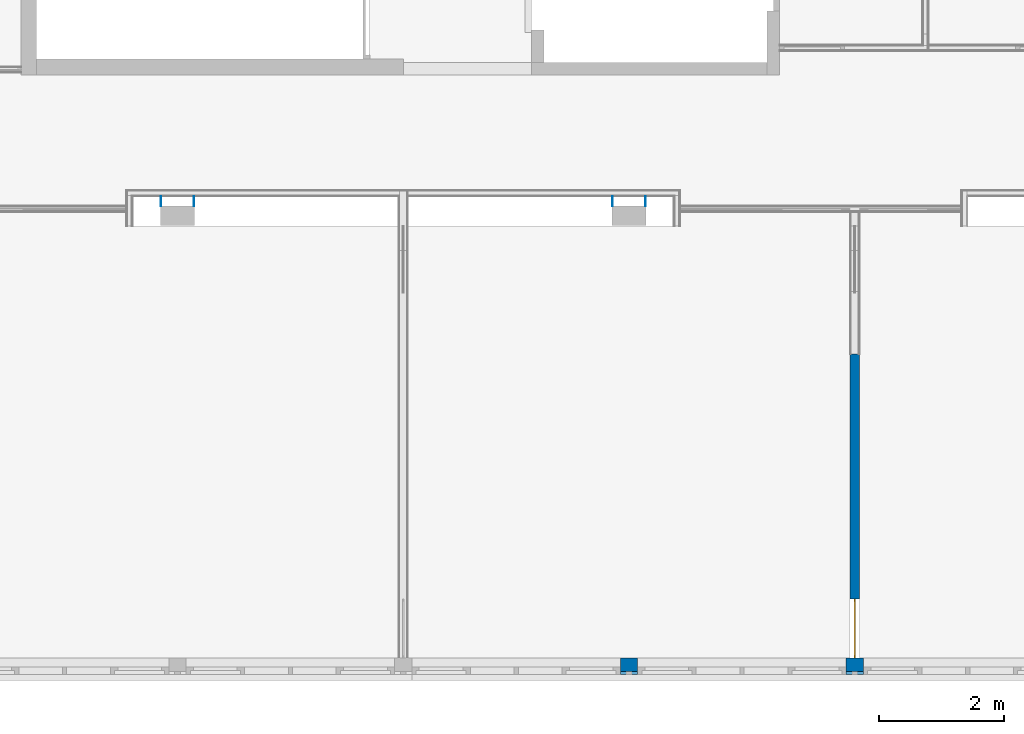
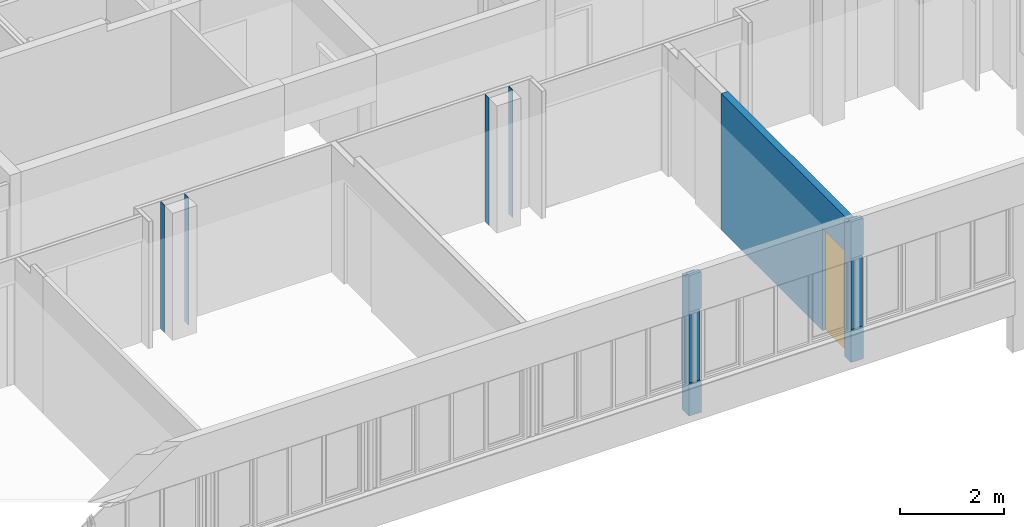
# One storey, part 41 of 99: 7 walls, 1 window, 1 opening.
"""IFC2X3 building model written with IfcOpenShell, lengths in millimetres."""

from ifc_helpers import new_model, entity, si_unit, converted_unit, derived_unit, money_unit, direction, frame, origin_with_axes, place, context, subcontext, project, spatial, open_shell, faceted_brep, surface_model, material, type_object, element, fill, save


model = new_model("IFC2X3")

# Units and contexts
model_context = context("Model", 3, precision=0.01, world=origin_with_axes(), true_north=direction((0.0, 1.0)))
body_context = subcontext(model_context, "Body", "Model", "MODEL_VIEW")
ifc_project = project(units=[si_unit("LENGTHUNIT", "METRE", prefix="MILLI"), si_unit("AREAUNIT", "SQUARE_METRE"), si_unit("VOLUMEUNIT", "CUBIC_METRE"), converted_unit("PLANEANGLEUNIT", "DEGREE", entity("IfcPlaneAngleMeasure", 0.0174532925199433), si_unit("PLANEANGLEUNIT", "RADIAN"), dimensions=[0, 0, 0, 0, 0, 0, 0]), money_unit("EUR"), converted_unit("TIMEUNIT", "Year", entity("IfcTimeMeasure", 31557600.0), si_unit("TIMEUNIT", "SECOND"), dimensions=[0, 0, 1, 0, 0, 0, 0]), si_unit("MASSUNIT", "GRAM", prefix="KILO"), si_unit("THERMODYNAMICTEMPERATUREUNIT", "DEGREE_CELSIUS"), si_unit("LUMINOUSINTENSITYUNIT", "LUMEN"), si_unit("ENERGYUNIT", "JOULE", prefix="MEGA"), derived_unit("THERMALCONDUCTANCEUNIT", [(si_unit("POWERUNIT", "WATT"), 1), (si_unit("LENGTHUNIT", "METRE"), -1), (si_unit("THERMODYNAMICTEMPERATUREUNIT", "KELVIN"), -1)]), derived_unit("SPECIFICHEATCAPACITYUNIT", [(si_unit("ENERGYUNIT", "JOULE"), 1), (si_unit("MASSUNIT", "GRAM", prefix="KILO"), -1), (si_unit("THERMODYNAMICTEMPERATUREUNIT", "KELVIN"), -1)]), derived_unit("MASSDENSITYUNIT", [(si_unit("MASSUNIT", "GRAM", prefix="KILO"), 1), (si_unit("VOLUMEUNIT", "CUBIC_METRE"), -1)])], contexts=[model_context])

# Site, building, storey
site_placement = place(None, origin_with_axes())
site = spatial("IfcSite", under=ifc_project, at=site_placement, Name="Site", CompositionType="ELEMENT")
building_placement = place(site_placement, origin_with_axes())
building = spatial("IfcBuilding", under=site, at=building_placement, Name="Naam gebouw", CompositionType="ELEMENT")
storey_placement = place(building_placement, frame((0.0, 0.0, 7650.0), z_axis=(0.0, 0.0, 1.0), x_axis=(1.0, 0.0, 0.0)))
storey = spatial("IfcBuildingStorey", under=building, at=storey_placement, Name="2e verdieping N", CompositionType="ELEMENT", Elevation=7650.0)

# Wall, opening, window
ifc_material_1 = material(Name="ALG - CONSTRUCTIEF")
wall_type_1 = type_object("IfcWallType", Name="ALG - CONSTRUCTIEF 150", PredefinedType="NOTDEFINED")
wall_1_placement = place(storey_placement, frame((25200.0, 3445.658971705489, -99.99999999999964), z_axis=(0.0, 0.0, 1.0), x_axis=(0.0, 1.0, 0.0)))
wall_1 = element("IfcWall", 1, at=wall_1_placement, inside=storey, type_object=wall_type_1, material=ifc_material_1, Name="_Wand-x", context=body_context, shape_type="Brep", body=[
    faceted_brep([(0.009163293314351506, 74.99999999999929, 3299.999999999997), (0.009735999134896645, 74.99999999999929, 2500.0), (0.009735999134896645, -9.99999999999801, 2500.0), (4845.253457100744, 74.99999999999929, 3299.999999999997), (4845.253457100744, 74.99999999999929, 99.99999999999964), (940.0097359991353, 74.99999999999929, 99.99999999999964), (940.0097359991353, 74.99999999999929, 2500.0), (940.0097359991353, -74.99999999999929, 2500.0), (0.009735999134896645, -74.99999999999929, 2500.0), (0.009163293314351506, -74.99999999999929, 3299.999999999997), (4845.253457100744, -74.99999999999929, 3299.999999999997), (4845.253457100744, -74.99999999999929, 99.99999999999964), (940.0097359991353, -74.99999999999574, 99.99999999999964), (940.0097359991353, -9.99999999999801, 99.99999999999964)], [[[0, 1, 2]], [[1, 0, 3, 4, 5, 6]], [[1, 6, 7, 8, 2]], [[9, 0, 2, 8]], [[3, 0, 9, 10]], [[4, 3, 10, 11]], [[5, 4, 11, 12, 13]], [[6, 5, 13, 12, 7]], [[9, 8, 7, 12, 11, 10]]]),
])
opening_placement = place(wall_1_placement, frame((470.0097359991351, 0.0, 99.99999999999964), z_axis=(0.0, 0.0, 1.0), x_axis=(1.0, 0.0, 0.0)))
opening = element("IfcOpeningElement", 2, at=opening_placement, cuts=wall_1, Name="_Merk-002", context=body_context, shape_type="Brep", body=[
    faceted_brep([(470.0000000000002, -9.99999999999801, 0.0), (470.0000000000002, -9.99999999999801, 2400.0), (470.0000000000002, -76.00000000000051, 2400.0), (470.0000000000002, -76.00000000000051, 0.0), (470.0000000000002, 76.00000000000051, 0.0), (470.0000000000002, 76.00000000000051, 2400.0), (-470.0000000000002, -9.99999999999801, 2400.0), (-470.0000000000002, -76.00000000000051, 2400.0), (-470.0000000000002, 76.00000000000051, 2400.0), (-470.0000000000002, -76.00000000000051, 0.0), (-470.0000000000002, -9.99999999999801, 0.0), (-470.0000000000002, 76.00000000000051, 0.0)], [[[0, 1, 2, 3]], [[1, 0, 4, 5]], [[6, 7, 2, 1, 5, 8]], [[7, 9, 3, 2]], [[0, 3, 9, 10, 11, 4]], [[5, 4, 11, 8]], [[6, 10, 9, 7]], [[10, 6, 8, 11]]]),
])
window_style = type_object("IfcWindowStyle", Name="R1 26", ConstructionType="NOTDEFINED", OperationType="SINGLE_PANEL", ParameterTakesPrecedence=False, Sizeable=False)
window_placement = place(opening_placement, frame((470.0000000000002, 0.0, 0.0), z_axis=(0.0, 0.0, 1.0), x_axis=(-1.0, 0.0, 0.0)))
window = element("IfcWindow", 3, at=window_placement, inside=storey, type_object=window_style, Name="_Merk-002", ObjectType="WINDOW", OverallHeight=2400.0, OverallWidth=940.0, context=body_context, shape_type="SurfaceModel", body=[
    faceted_brep([(910.0000000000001, -10.00000000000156, 2369.999999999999), (940.0000000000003, -10.00000000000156, 2369.999999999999), (940.0000000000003, 9.99999999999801, 2369.999999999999), (910.0000000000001, 9.99999999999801, 2369.999999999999), (910.0000000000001, -10.00000000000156, 30.00000000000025), (940.0000000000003, -10.00000000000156, 30.00000000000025), (940.0000000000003, 9.99999999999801, 30.00000000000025), (910.0000000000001, 9.99999999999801, 30.00000000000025)], [[[0, 1, 2, 3]], [[0, 4, 5, 1]], [[1, 5, 6, 2]], [[3, 2, 6, 7]], [[4, 0, 3, 7]], [[5, 4, 7, 6]]]),
    faceted_brep([(30.00000000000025, -10.00000000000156, 30.00000000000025), (0.0, -10.00000000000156, 30.00000000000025), (0.0, 9.99999999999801, 30.00000000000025), (30.00000000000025, 9.99999999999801, 30.00000000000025), (30.00000000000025, -10.00000000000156, 2369.999999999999), (0.0, -10.00000000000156, 2369.999999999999), (0.0, 9.99999999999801, 2369.999999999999), (30.00000000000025, 9.99999999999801, 2369.999999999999)], [[[0, 1, 2, 3]], [[0, 4, 5, 1]], [[1, 5, 6, 2]], [[3, 2, 6, 7]], [[4, 0, 3, 7]], [[5, 4, 7, 6]]]),
    faceted_brep([(910.0000000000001, -10.00000000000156, 30.00000000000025), (940.0000000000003, -10.00000000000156, 30.00000000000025), (940.0000000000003, 9.99999999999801, 30.00000000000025), (910.0000000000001, 9.99999999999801, 30.00000000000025), (30.00000000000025, -10.00000000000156, 30.00000000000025), (0.0, -10.00000000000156, 30.00000000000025), (0.0, -10.00000000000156, 0.0), (940.0000000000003, -10.00000000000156, 0.0), (940.0000000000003, 9.99999999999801, 0.0), (0.0, 9.99999999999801, 0.0), (0.0, 9.99999999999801, 30.00000000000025), (30.00000000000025, 9.99999999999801, 30.00000000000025)], [[[0, 1, 2, 3]], [[0, 4, 5, 6, 7, 1]], [[1, 7, 8, 2]], [[3, 2, 8, 9, 10, 11]], [[4, 0, 3, 11]], [[5, 4, 11, 10]], [[6, 5, 10, 9]], [[7, 6, 9, 8]]]),
    faceted_brep([(30.00000000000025, -10.00000000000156, 2369.999999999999), (0.0, -10.00000000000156, 2369.999999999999), (0.0, 9.99999999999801, 2369.999999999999), (30.00000000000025, 9.99999999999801, 2369.999999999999), (910.0000000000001, -10.00000000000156, 2369.999999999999), (940.0000000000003, -10.00000000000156, 2369.999999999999), (940.0000000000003, -10.00000000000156, 2400.0), (0.0, -10.00000000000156, 2400.0), (0.0, 9.99999999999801, 2400.0), (940.0000000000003, 9.99999999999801, 2400.0), (940.0000000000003, 9.99999999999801, 2369.999999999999), (910.0000000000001, 9.99999999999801, 2369.999999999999)], [[[0, 1, 2, 3]], [[0, 4, 5, 6, 7, 1]], [[1, 7, 8, 2]], [[3, 2, 8, 9, 10, 11]], [[4, 0, 3, 11]], [[5, 4, 11, 10]], [[6, 5, 10, 9]], [[7, 6, 9, 8]]]),
    surface_model("IfcShellBasedSurfaceModel", [(910.0000000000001, -10.00000000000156, 30.00000000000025), (910.0000000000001, -10.00000000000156, 2369.999999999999), (30.00000000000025, -10.00000000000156, 2369.999999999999), (30.00000000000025, -10.00000000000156, 30.00000000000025)], [open_shell([[[0, 1, 2, 3]]])]),
    surface_model("IfcShellBasedSurfaceModel", [(910.0000000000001, 0.0, 30.00000000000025), (30.00000000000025, 0.0, 30.00000000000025), (30.00000000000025, 0.0, 2369.999999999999), (910.0000000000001, 0.0, 2369.999999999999)], [open_shell([[[0, 1, 2, 3]]])]),
])
fill(opening, window)

# Walls
ifc_material_2 = material(Name="Gipsplaat")
wall_type_2 = type_object("IfcWallType", Name="Metalstud 100 enkel 100", PredefinedType="NOTDEFINED")
wall_2_placement = place(storey_placement, frame((14130.0, 10650.91242510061, 0.0), z_axis=(0.0, 0.0, 1.0), x_axis=(0.0, 1.0, 0.0)))
element("IfcWall", 4, at=wall_2_placement, inside=storey, type_object=wall_type_2, material=ifc_material_2, Name="_Wand-x", context=body_context, shape_type="Brep", body=[
    faceted_brep([(155.0000000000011, -12.49999999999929, 0.0), (155.0000000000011, 0.0, 0.0), (155.0000000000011, 0.0, 2989.999999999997), (155.0000000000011, -12.49999999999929, 2989.999999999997), (0.0, -12.49999999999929, 0.0), (0.0, 0.0, 0.0), (0.0, 0.0, 2989.999999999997), (0.0, -12.49999999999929, 2989.999999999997)], [[[0, 1, 2, 3]], [[4, 5, 1, 0]], [[1, 5, 6, 2]], [[2, 6, 7, 3]], [[4, 0, 3, 7]], [[5, 4, 7, 6]]]),
])
wall_3_placement = place(storey_placement, frame((21870.0, 10650.91242510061, 0.0), z_axis=(0.0, 0.0, 1.0), x_axis=(0.0, 1.0, 0.0)))
element("IfcWall", 5, at=wall_3_placement, inside=storey, type_object=wall_type_2, material=ifc_material_2, Name="_Wand-x", context=body_context, shape_type="Brep", body=[
    faceted_brep([(155.0000000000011, 0.0, 0.0), (155.0000000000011, 12.49999999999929, 0.0), (155.0000000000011, 12.49999999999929, 2989.999999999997), (155.0000000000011, 0.0, 2989.999999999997), (0.0, 0.0, 0.0), (0.0, 12.49999999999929, 0.0), (0.0, 12.49999999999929, 2989.999999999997), (0.0, 0.0, 2989.999999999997)], [[[0, 1, 2, 3]], [[4, 5, 1, 0]], [[1, 5, 6, 2]], [[2, 6, 7, 3]], [[4, 0, 3, 7]], [[5, 4, 7, 6]]]),
])
wall_4_placement = place(storey_placement, frame((14670.0, 10650.91242510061, 0.0), z_axis=(0.0, 0.0, 1.0), x_axis=(0.0, 1.0, 0.0)))
element("IfcWall", 6, at=wall_4_placement, inside=storey, type_object=wall_type_2, material=ifc_material_2, Name="_Wand-x", context=body_context, shape_type="Brep", body=[
    faceted_brep([(155.0000000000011, 0.0, 0.0), (155.0000000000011, 12.49999999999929, 0.0), (155.0000000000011, 12.50000000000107, 2989.999999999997), (155.0000000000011, 0.0, 2989.999999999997), (0.0, 0.0, 0.0), (0.0, 12.49999999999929, 0.0), (0.0, 12.50000000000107, 2989.999999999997), (0.0, 0.0, 2989.999999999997)], [[[0, 1, 2, 3]], [[4, 5, 1, 0]], [[1, 5, 6, 2]], [[2, 6, 7, 3]], [[4, 0, 3, 7]], [[5, 4, 7, 6]]]),
])
wall_5_placement = place(storey_placement, frame((21330.0, 10650.91242510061, 0.0), z_axis=(0.0, 0.0, 1.0), x_axis=(0.0, 1.0, 0.0)))
element("IfcWall", 7, at=wall_5_placement, inside=storey, type_object=wall_type_2, material=ifc_material_2, Name="_Wand-x", context=body_context, shape_type="Brep", body=[
    faceted_brep([(155.0000000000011, -12.49999999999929, 0.0), (155.0000000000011, 0.0, 0.0), (155.0000000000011, 0.0, 2989.999999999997), (155.0000000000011, -12.49999999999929, 2989.999999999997), (0.0, -12.49999999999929, 0.0), (0.0, 0.0, 0.0), (0.0, 0.0, 2989.999999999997), (0.0, -12.49999999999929, 2989.999999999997)], [[[0, 1, 2, 3]], [[4, 5, 1, 0]], [[1, 5, 6, 2]], [[2, 6, 7, 3]], [[4, 0, 3, 7]], [[5, 4, 7, 6]]]),
])
ifc_material_3 = material(Name="ALG - GEVEL")
wall_type_3 = type_object("IfcWallType", Name="ALG - GEVEL 260", PredefinedType="NOTDEFINED")
wall_6_placement = place(storey_placement, frame((21462.45659076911, 3185.658971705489, 0.0), z_axis=(0.0, 0.0, 1.0), x_axis=(1.0, 0.0, 0.0)))
element("IfcWall", 8, at=wall_6_placement, inside=storey, type_object=wall_type_3, material=ifc_material_3, Name="_Wand-x", context=body_context, shape_type="Brep", body=[
    faceted_brep([(275.0434092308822, 44.00973599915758, 2440.000000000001), (275.0434092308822, 0.009735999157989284, 2440.000000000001), (0.04340923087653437, 0.009735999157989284, 2440.000000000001), (0.04340923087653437, 44.00973599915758, 2440.000000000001), (275.0000000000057, 0.0, 3299.999999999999), (0.0, 0.0, 3299.999999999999), (0.0, 0.0, 737.6326980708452), (0.04340923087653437, 44.00973599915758, 737.6344147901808), (275.0434092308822, 44.00973599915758, 737.6344147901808), (275.0000000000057, 110.253453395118, 3199.999999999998), (0.0, 110.253453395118, 3299.999999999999), (275.0000000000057, 110.253453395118, 3299.999999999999), (0.0, 259.9999999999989, 0.0), (0.0, 0.0, 0.0), (0.0, 0.0, 735.6018448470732), (0.0, 7.000000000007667, 736.8361337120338), (0.0, 7.000000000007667, 748.5143329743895), (0.0, 5.000000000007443, 748.5143329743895), (0.0, 5.000000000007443, 738.5143329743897), (0.0, 110.253453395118, 3199.999999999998), (0.0, 260.0000000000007, 3199.999999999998), (0.04340923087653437, 7.000000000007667, 737.6344147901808), (275.0434092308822, 7.000000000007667, 737.6344147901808), (275.0000000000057, 260.0000000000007, 3199.999999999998), (275.0000000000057, 259.9999999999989, 0.0), (275.0000000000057, 0.0, 0.0), (275.0000000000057, 0.0, 735.6018448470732), (275.0000000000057, 7.000000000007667, 736.8361337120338)], [[[0, 1, 2, 3]], [[1, 0, 4]], [[2, 1, 4, 5, 6]], [[3, 2, 7]], [[3, 7, 8, 0]], [[4, 0, 9]], [[10, 5, 4, 11]], [[12, 13, 14, 15, 16, 17, 18, 6, 5, 10, 19, 20]], [[6, 18, 2]], [[7, 2, 16]], [[7, 21, 22, 8]], [[8, 23, 0]], [[9, 0, 23]], [[11, 4, 9]], [[11, 9, 19, 10]], [[24, 25, 13, 12]], [[13, 25, 26, 14]], [[15, 14, 26, 27]], [[22, 21, 16, 15, 27]], [[16, 2, 17]], [[18, 17, 2]], [[23, 20, 19, 9]], [[23, 24, 12, 20]], [[21, 7, 16]], [[22, 27, 8]], [[25, 23, 8]], [[24, 23, 25]], [[26, 25, 27]], [[27, 25, 8]]]),
])
wall_7_placement = place(storey_placement, frame((25062.45659076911, 3185.658971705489, 0.0), z_axis=(0.0, 0.0, 1.0), x_axis=(1.0, 0.0, 0.0)))
element("IfcWall", 9, at=wall_7_placement, inside=storey, type_object=wall_type_3, material=ifc_material_3, Name="_Wand-x", context=body_context, shape_type="Brep", body=[
    faceted_brep([(275.0434092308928, 44.00973599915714, 2440.000000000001), (275.0434092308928, 0.009735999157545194, 2440.000000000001), (0.04340923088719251, 0.009735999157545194, 2440.000000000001), (0.04340923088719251, 44.00973599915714, 2440.000000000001), (275.0000000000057, 0.0, 3299.999999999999), (0.0, 0.0, 3299.999999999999), (0.0, 0.0, 737.6326980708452), (0.04340923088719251, 44.00973599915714, 737.6344147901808), (275.0434092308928, 44.00973599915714, 737.6344147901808), (275.0000000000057, 110.253453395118, 3199.999999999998), (0.0, 110.253453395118, 3299.999999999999), (275.0000000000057, 110.253453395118, 3299.999999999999), (0.0, 259.9999999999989, 0.0), (0.0, 0.0, 0.0), (0.0, 0.0, 735.6018448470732), (0.0, 7.000000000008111, 736.8361337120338), (0.0, 7.000000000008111, 748.5143329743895), (0.0, 5.000000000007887, 748.5143329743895), (0.0, 5.000000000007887, 738.5143329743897), (0.0, 110.253453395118, 3199.999999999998), (0.0, 260.0000000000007, 3199.999999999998), (0.04340923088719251, 7.000000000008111, 737.6344147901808), (275.0434092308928, 7.000000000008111, 737.6344147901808), (275.0000000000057, 260.0000000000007, 3199.999999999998), (275.0000000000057, 259.9999999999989, 0.0), (275.0000000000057, 0.0, 0.0), (275.0000000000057, 0.0, 735.6018448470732), (275.0000000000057, 7.000000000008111, 736.8361337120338)], [[[0, 1, 2, 3]], [[1, 0, 4]], [[2, 1, 4, 5, 6]], [[3, 2, 7]], [[3, 7, 8, 0]], [[4, 0, 9]], [[10, 5, 4, 11]], [[12, 13, 14, 15, 16, 17, 18, 6, 5, 10, 19, 20]], [[6, 18, 2]], [[7, 2, 16]], [[7, 21, 22, 8]], [[8, 23, 0]], [[9, 0, 23]], [[11, 4, 9]], [[11, 9, 19, 10]], [[24, 25, 13, 12]], [[13, 25, 26, 14]], [[15, 14, 26, 27]], [[22, 21, 16, 15, 27]], [[16, 2, 17]], [[18, 17, 2]], [[23, 20, 19, 9]], [[23, 24, 12, 20]], [[21, 7, 16]], [[22, 27, 8]], [[25, 23, 8]], [[24, 23, 25]], [[26, 25, 27]], [[27, 25, 8]]]),
])

save(model, "model.ifc")
